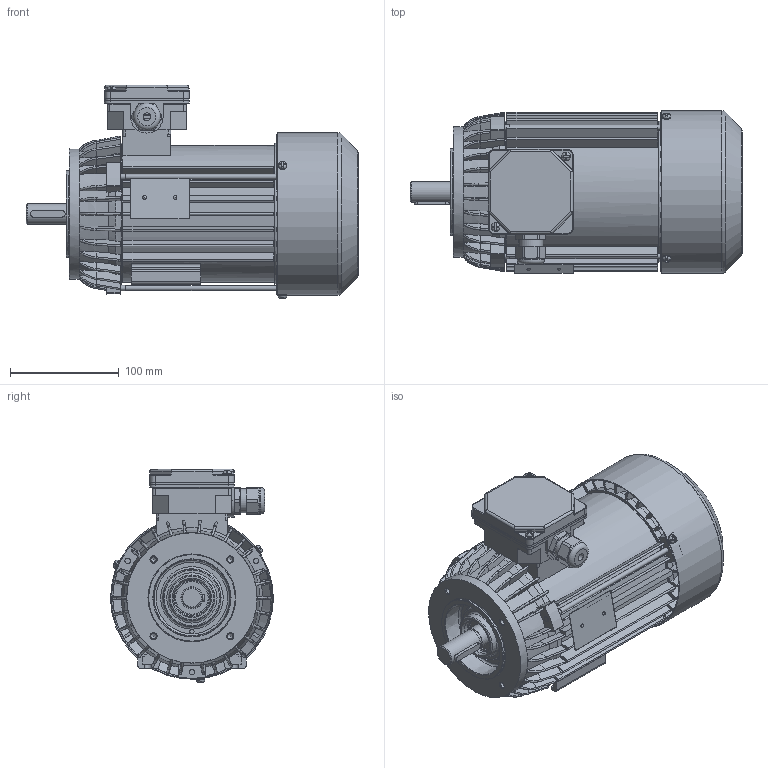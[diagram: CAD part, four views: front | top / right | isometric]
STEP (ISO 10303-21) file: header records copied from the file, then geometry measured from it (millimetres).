
FILE_DESCRIPTION(/* description */ ('Unknown'),/* implementation_level */ '2;1');
FILE_NAME(/* name */ '2SIEK80-6B2',/* time_stamp */ '2021-04-12T14:58:06+02:00',/* author */ ('Unknown'),/* organization */ ('Unknown'),/* preprocessor_version */ 'ST-DEVELOPER v16.7',/* originating_system */ 'Solid Edge',/* authorisation */ 'Unknown');
FILE_SCHEMA (('AUTOMOTIVE_DESIGN {1 0 10303 214 3 1 1}'));
Products named in the file (1): 2SIEK80-6B2
Bounding box: 305.79 x 150.01 x 196.68 mm (x, y, z)
Volume: 898447.3 mm3; surface area: 552504.9 mm2
Topology: 4 solids, 4 shells, 2732 faces, 7775 edges, 5041 vertices
Faces by surface type: plane 1380, cylinder 789, bspline 310, cone 120, torus 115, sphere 18
Full cylindrical faces by diameter (mm): 2 x2, 2.4 x2, 3 x1, 3.7 x8, 4 x10, 4.5 x2, 4.6 x3, 4.8 x2, 5 x12, 5.5 x3, 6.5 x6, 7 x1, 8 x9, 9 x2, 12 x3, 18.598 x1, 18.998 x1, 19.298 x1, 19.498 x1, 19.898 x1, 19.948 x1, 19.998 x2, 20.4 x2, 22.3 x1, 25 x1, 25.497 x1, 25.647 x1, 25.997 x3, 26.047 x1, 28.799 x4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
Entity records: 112801 total; most frequent: CARTESIAN_POINT 27640, ORIENTED_EDGE 14636, DIRECTION 13113, EDGE_CURVE 7318, VERTEX_POINT 4881, AXIS2_PLACEMENT_3D 4684, LINE 3745, VECTOR 3745
